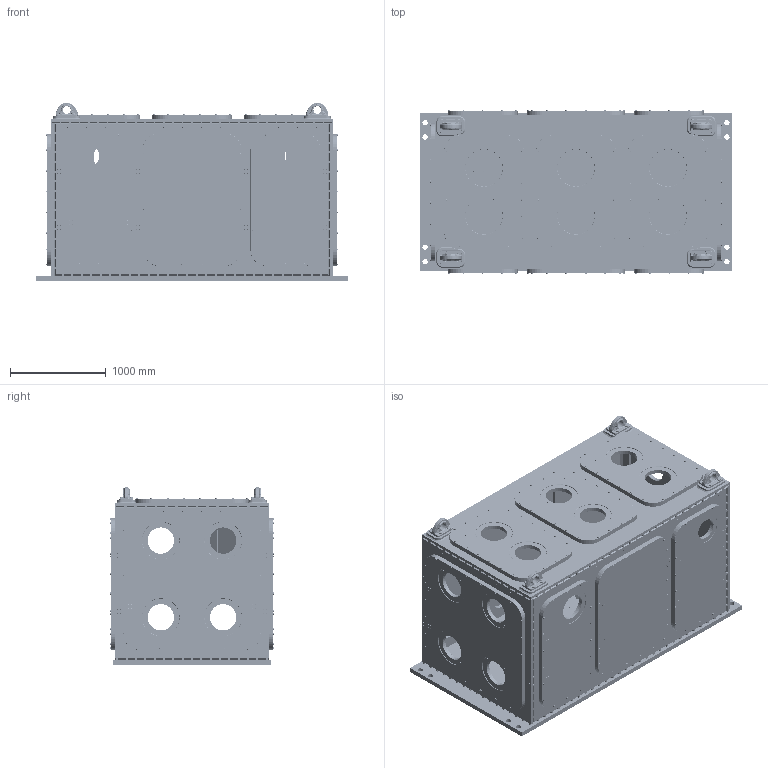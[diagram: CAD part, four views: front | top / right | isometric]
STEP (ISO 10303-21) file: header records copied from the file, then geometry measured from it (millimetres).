
FILE_DESCRIPTION(/* description */ ('Unknown'),/* implementation_level */ '2;1');
FILE_NAME(/* name */ 'SL-1052035-A',/* time_stamp */ '2019-12-04T08:22:08+00:00',/* author */ ('Unknown'),/* organization */ ('Unknown'),/* preprocessor_version */ 'ST-DEVELOPER v16.7',/* originating_system */ 'DEX',/* authorisation */ $);
FILE_SCHEMA (('AUTOMOTIVE_DESIGN {1 0 10303 214 3 1 1}'));
Products named in the file (35): SL-1052035; SL-1050188_oa_0; SL-1050187; SL-1050175; SL-1050186; SL-1050185; SL-1050182; SL-1050179_oa_1; SL-1050197; SL-1051155; SP-L006696; SL-1052486; SL-1050403; M16 x 55 LG HEX HD SCREW STAIN. S; M16 PLAIN WASHER STAIN. S; SP-L006697; SL-1053701_oa_2; SL-1053701_oa_3; SL-1053699_oa_4; SL-1053699_oa_5; SL-1050176; SL-1050180; SL-1050183; SL-1050375; SL-1050184; SL-1053683; SL-1053685; SL-1053686; SL-1053688; M12 x 50 LG HEX HD BOLT STAIN. S; M12 PLAIN WASHER STAIN. S; SL-1053689; SL-1053690; SL-1053691; SL-1053692
Assembly tree (537 placements, depth 3):
  SL-1052035
    SL-1050188_oa_0
      SL-1050187
      SL-1050175
      SL-1050186
      SL-1050185
      SL-1050182
      SL-1050179_oa_1
      SL-1050197
      SL-1051155
      SP-L006696  x4
      SL-1052486
      SL-1050403  x4
      M16 x 55 LG HEX HD SCREW STAIN. S  x5
      M16 PLAIN WASHER STAIN. S  x5
      SP-L006697  x16
      SL-1053701_oa_2
      SL-1053701_oa_3
      SL-1053699_oa_4
      SL-1053699_oa_5
    SL-1050176  x2
    SL-1050180  x2
    SL-1050183  x3
    SL-1050375  x3
    SL-1050184
    SL-1053683  x4
    SL-1053685  x4
    SL-1053686  x2
    SL-1053688  x2
    M12 x 50 LG HEX HD BOLT STAIN. S  x228
    M12 PLAIN WASHER STAIN. S  x228
    SL-1053689  x3
    SL-1053690  x3
    SL-1053691  x2
    SL-1053692  x2
Bounding box: 3250 x 1710 x 1860.61 mm (x, y, z)
Volume: 1535063817.1 mm3; surface area: 75727986.8 mm2
Topology: 537 solids, 537 shells, 14491 faces, 32988 edges, 20661 vertices
Faces by surface type: plane 6025, cylinder 4276, cone 3253, torus 805, sphere 68, bspline 64
Full cylindrical faces by diameter (mm): 4 x27, 5.33 x88, 6.8 x312, 8 x2, 8.5 x472, 9.853 x228, 10.2 x510, 12 x456, 13 x228, 13.5 x228, 13.546 x5, 13.835 x4, 14 x105, 14.5 x24, 16 x10, 16.63 x228, 17 x9, 17.5 x32, 20 x16, 22 x32, 22.49 x5, 24 x228, 25 x24, 28.19 x16, 30 x5, 32 x4, 55 x8, 225 x3, 275 x15, 325 x3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
Entity records: 183997 total; most frequent: DIRECTION 26350, CARTESIAN_POINT 25058, ORIENTED_EDGE 20826, EDGE_CURVE 10413, AXIS2_PLACEMENT_3D 10086, FACE_BOUND 8894, EDGE_LOOP 8416, VERTEX_POINT 7883
